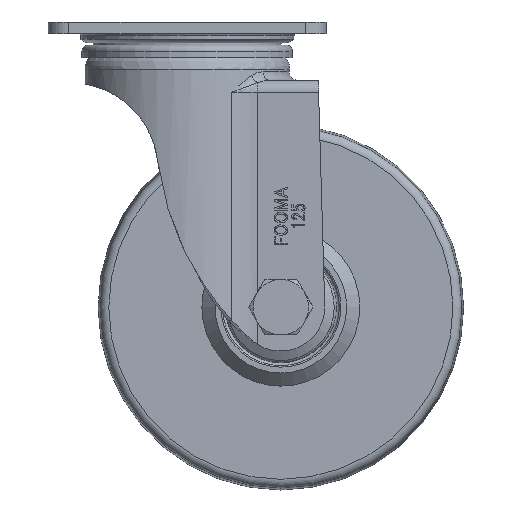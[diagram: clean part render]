
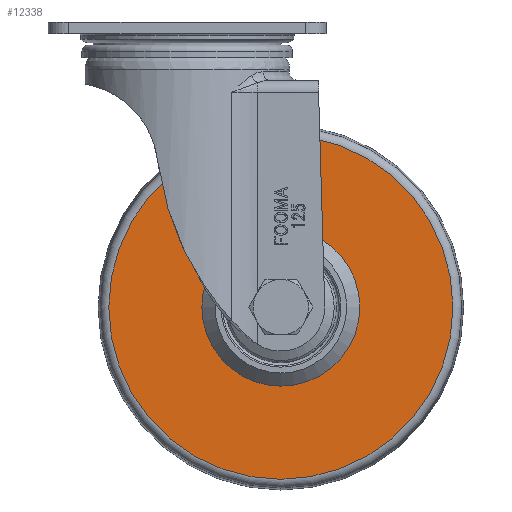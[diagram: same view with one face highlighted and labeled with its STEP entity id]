
A CAD part, left-side view. The second image highlights one B-rep face of the part: STEP entity #12338.
In plain terms, the highlighted planar face has unit normal (-1, 0, 0).
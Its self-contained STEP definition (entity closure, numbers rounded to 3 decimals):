
#3354=PLANE('',#13081);
#3752=FACE_BOUND('',#4619,.T.);
#3897=FACE_OUTER_BOUND('',#4618,.T.);
#4618=EDGE_LOOP('',(#8766));
#4619=EDGE_LOOP('',(#8767));
#5460=CIRCLE('',#13064,27.);
#5469=CIRCLE('',#13080,58.832);
#5774=VERTEX_POINT('',#16881);
#5783=VERTEX_POINT('',#16906);
#6974=EDGE_CURVE('',#5774,#5774,#5460,.T.);
#6983=EDGE_CURVE('',#5783,#5783,#5469,.T.);
#8766=ORIENTED_EDGE('',*,*,#6983,.T.);
#8767=ORIENTED_EDGE('',*,*,#6974,.F.);
#12338=ADVANCED_FACE('',(#3897,#3752),#3354,.T.);
#13064=AXIS2_PLACEMENT_3D('',#16882,#14044,#14045);
#13080=AXIS2_PLACEMENT_3D('',#16907,#14076,#14077);
#13081=AXIS2_PLACEMENT_3D('',#16908,#14078,#14079);
#14044=DIRECTION('center_axis',(-1.,0.,0.));
#14045=DIRECTION('ref_axis',(0.,0.,1.));
#14076=DIRECTION('center_axis',(-1.,0.,0.));
#14077=DIRECTION('ref_axis',(0.,0.,1.));
#14078=DIRECTION('center_axis',(-1.,0.,0.));
#14079=DIRECTION('ref_axis',(0.,0.,1.));
#16881=CARTESIAN_POINT('',(-17.5,-32.,-70.5));
#16882=CARTESIAN_POINT('Origin',(-17.5,-32.,-97.5));
#16906=CARTESIAN_POINT('',(-17.5,-32.,-38.668));
#16907=CARTESIAN_POINT('Origin',(-17.5,-32.,-97.5));
#16908=CARTESIAN_POINT('Origin',(-17.5,-32.,-70.5));
